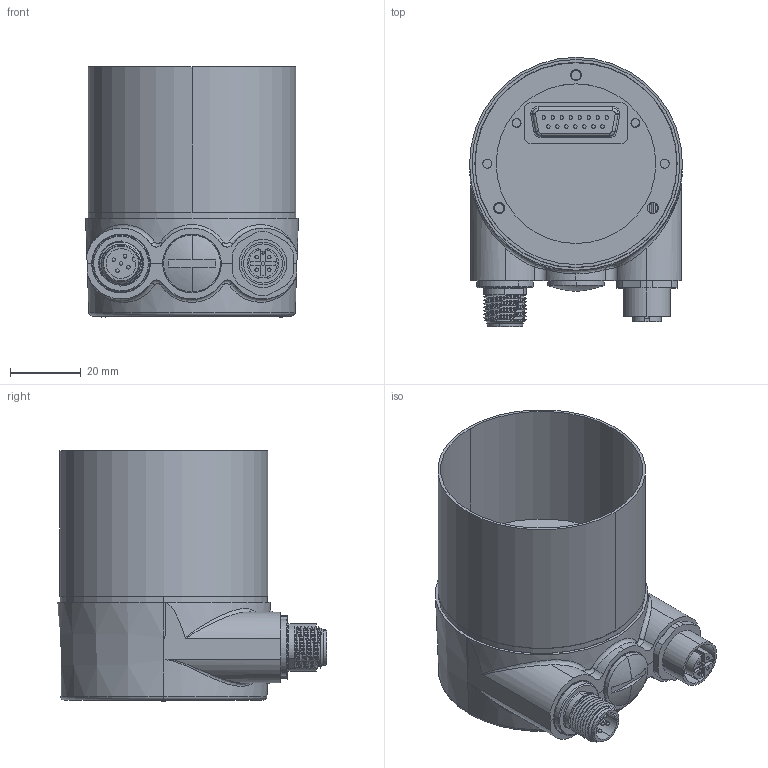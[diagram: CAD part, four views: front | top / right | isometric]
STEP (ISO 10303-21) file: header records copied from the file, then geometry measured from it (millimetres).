
FILE_DESCRIPTION (( 'STEP AP203' ), '1' );
FILE_NAME ('Drawing-OC-5-TC-430-SZM-HCCNNN-Y-H2B-N.STEP', '2013-10-08T12:55:40', ( 'Admin' ), ( 'Microsoft' ), 'SwSTEP 2.0', 'SolidWorks 2006104', '' );
FILE_SCHEMA (( 'CONFIG_CONTROL_DESIGN' ));
Length unit declared in the file: centimetre
Products named in the file (13): Drawing-OC-5-TC-430-SZM-HCCNNN-Y-H2B-N; Assembly Male socket M12_5pol.; Connection_cap_46W3445_32460639_03_Machined Part; Label_Profibus_Standard; CAN-BUS PCB Connection cap  DO2000-B2-ROHS_0246369228_Standard; Screw M3 X 30 slotted cylinder head V2A_21052030_Standard; Screw M3 X 6 torx cylinder head V2A Polylock_38331085_Standard; Drawing-OC-5-TC-430-SZM-HCCNNN-Y_Standard; Cap OCD-ll Fieldbus standard_10021244_46W4018-00_Standard; Housing XC-5-TU-410-SNM-NNN-NNN-N_10016007_46W3602_01-white_Standard; Blind Plug M12 x 1,5_38022096_Standard; Female socket M12x1 5pin A-coded - M16x1,5_34500509_Standard; Connection cap_CanOpen_3xM12_20091203_01-white1_Standard
Assembly tree (12 placements, depth 3):
  Drawing-OC-5-TC-430-SZM-HCCNNN-Y-H2B-N
    Drawing-OC-5-TC-430-SZM-HCCNNN-Y_Standard
      Cap OCD-ll Fieldbus standard_10021244_46W4018-00_Standard
      Housing XC-5-TU-410-SNM-NNN-NNN-N_10016007_46W3602_01-white_Standard
    Blind Plug M12 x 1,5_38022096_Standard
    Assembly Male socket M12_5pol.
    Connection cap_CanOpen_3xM12_20091203_01-white1_Standard
      Connection_cap_46W3445_32460639_03_Machined Part
      Label_Profibus_Standard
      Screw M3 X 30 slotted cylinder head V2A_21052030_Standard  x2
      CAN-BUS PCB Connection cap  DO2000-B2-ROHS_0246369228_Standard
    Female socket M12x1 5pin A-coded - M16x1,5_34500509_Standard
  Screw M3 X 6 torx cylinder head V2A Polylock_38331085_Standard
Bounding box: 60 x 75.9 x 70.6 mm (x, y, z)
Volume: 44103 mm3; surface area: 61456.6 mm2
Topology: 10 solids, 55 shells, 1244 faces, 4129 edges, 2965 vertices
Faces by surface type: plane 581, cylinder 423, bspline 92, cone 75, torus 68, sphere 5
Entity records: 79033 total; most frequent: CARTESIAN_POINT 43386, ORIENTED_EDGE 6795, DIRECTION 6633, EDGE_CURVE 4083, VERTEX_POINT 2939, AXIS2_PLACEMENT_3D 2211, VECTOR 2211, LINE 2211
